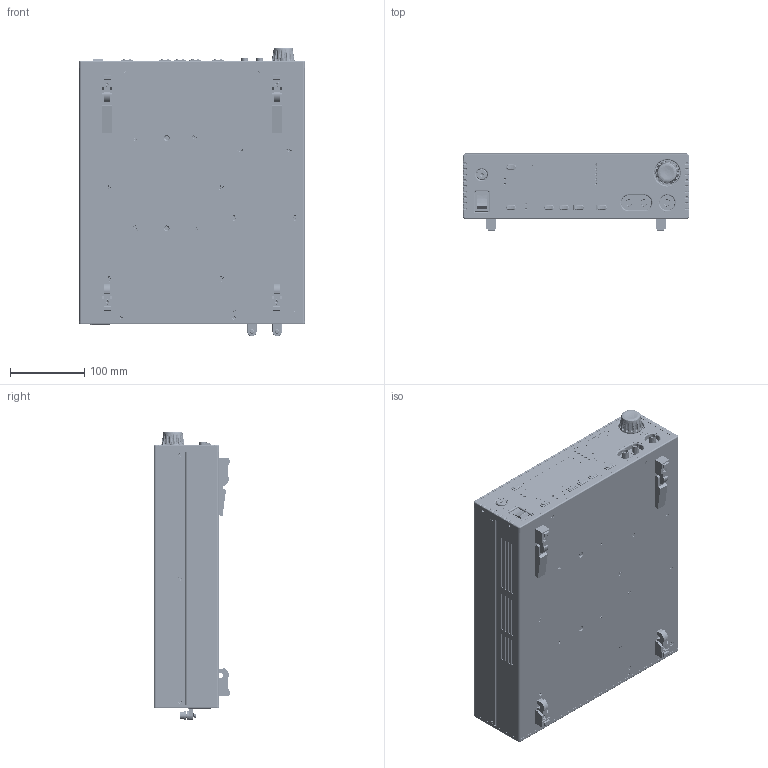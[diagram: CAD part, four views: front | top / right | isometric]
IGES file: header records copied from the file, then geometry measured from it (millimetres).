
Start section: SolidWorks IGES file using analytic representation for surfaces
Global section: file name: C:\Dropbox\Mechanical Engr\Development Projects (P)\4400 LaserSource\Customer Model Development\Step 4 - 44XX TLA - Bus Bar.IGS; native system: SolidWorks 2017; preprocessor: SolidWorks 2017; author: mhanson; date: 180314.122020; units: inch
Bounding box: 304.8 x 103.35 x 389.43 mm (x, y, z)
Surface area: 393099.7 mm2 (no closed solid volume)
Topology: 0 solids, 0 shells, 10308 faces, 113977 edges, 113878 vertices
Faces by surface type: bspline 8399, revolution 1909
